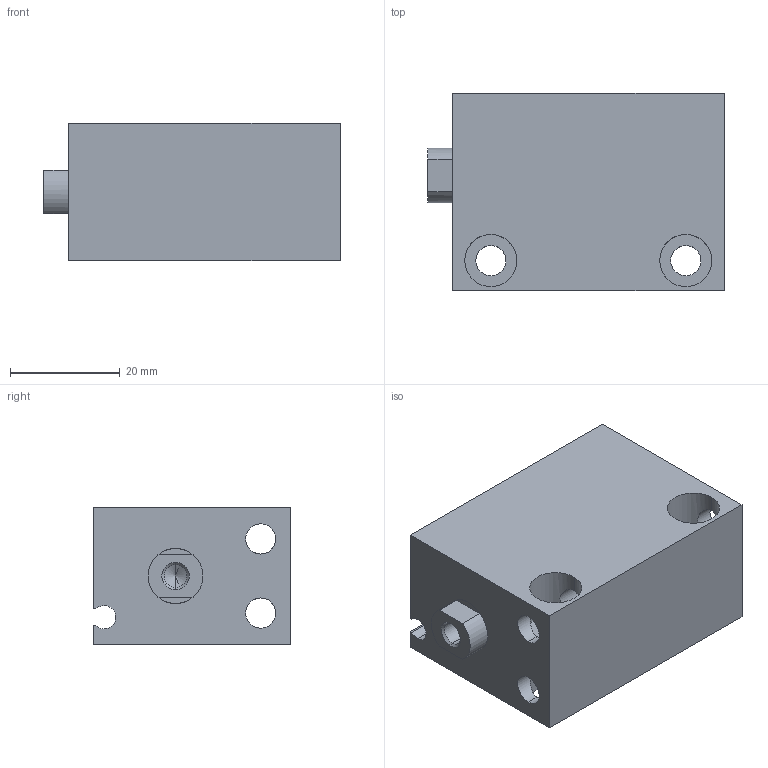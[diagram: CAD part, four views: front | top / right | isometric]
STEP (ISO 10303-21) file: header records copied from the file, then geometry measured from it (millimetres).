
FILE_DESCRIPTION (( 'STEP AP203' ), '1' );
FILE_NAME ('CLJB20-30.STEP', '2020-07-30T19:26:49', ( '' ), ( '' ), 'SwSTEP 2.0', 'SolidWorks 2019', '' );
FILE_SCHEMA (( 'CONFIG_CONTROL_DESIGN' ));
Length unit declared in the file: millimetre
Products named in the file (1): CLJB20-30
Bounding box: 54 x 36 x 25 mm (x, y, z)
Volume: 32504.5 mm3; surface area: 15181.3 mm2
Topology: 2 solids, 2 shells, 75 faces, 188 edges, 113 vertices
Faces by surface type: cylinder 41, plane 22, cone 12
Entity records: 3255 total; most frequent: CARTESIAN_POINT 1359, DIRECTION 394, ORIENTED_EDGE 364, EDGE_CURVE 182, AXIS2_PLACEMENT_3D 152, VERTEX_POINT 113, EDGE_LOOP 93, VECTOR 90
